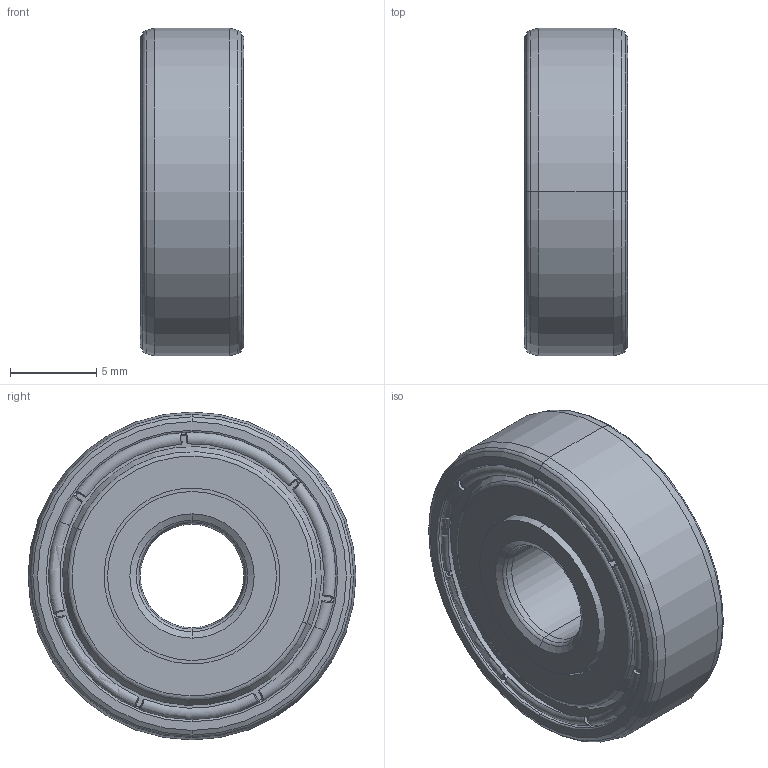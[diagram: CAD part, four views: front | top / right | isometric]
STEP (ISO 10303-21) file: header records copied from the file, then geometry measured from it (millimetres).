
FILE_DESCRIPTION((''),'2;1');
FILE_NAME('626ZZ-EA020','2025-12-19T16:34:29',('qinghui.yi'),(''),'CREO PARAMETRIC BY PTC INC, 2019164','CREO PARAMETRIC BY PTC INC, 2019164','');
FILE_SCHEMA(('CONFIG_CONTROL_DESIGN','SHAPE_APPEARANCE_LAYERS_GROUPS'));
Length unit declared in the file: millimetre
Products named in the file (1): 626ZZ-EA020
Bounding box: 6 x 19 x 19 mm (x, y, z)
Volume: 795 mm3; surface area: 2075.3 mm2
Topology: 2 solids, 2 shells, 185 faces, 441 edges, 274 vertices
Faces by surface type: cylinder 54, plane 46, cone 43, torus 42
Entity records: 6115 total; most frequent: CARTESIAN_POINT 1641, DIRECTION 907, ORIENTED_EDGE 882, EDGE_CURVE 441, AXIS2_PLACEMENT_3D 405, VERTEX_POINT 274, CIRCLE 220, EDGE_LOOP 203
